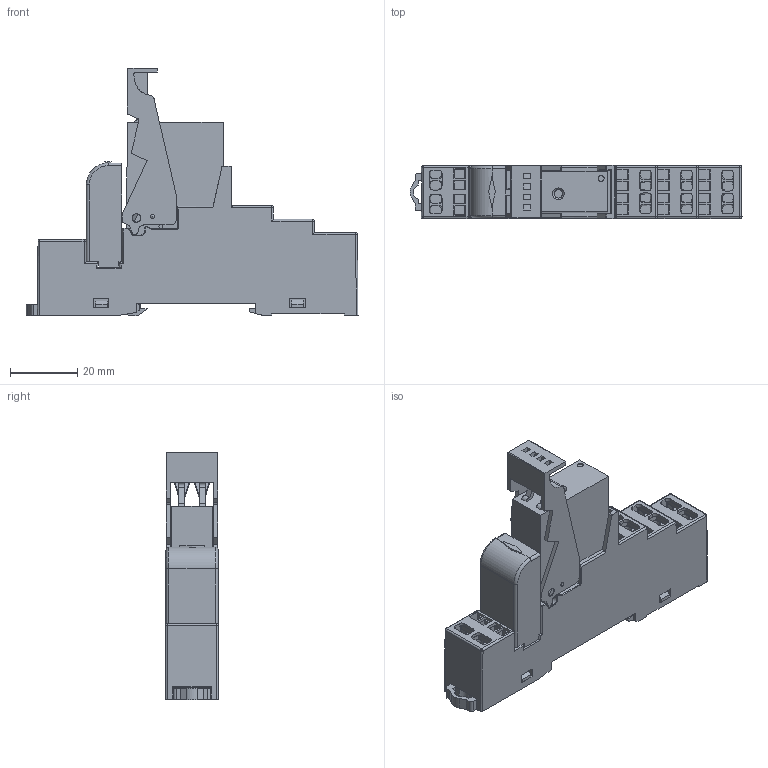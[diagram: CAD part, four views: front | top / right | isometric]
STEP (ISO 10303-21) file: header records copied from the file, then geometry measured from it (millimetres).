
FILE_DESCRIPTION( ( 'Unknown' ), '1' );
FILE_NAME( 'C:/Users/pdellaca/Desktop/48_72/4872.stp', 'Unknown', ( 'Unknown' ), ( 'Unknown' ), 'PSStep 15.0.49', 'Unknown', ' ' );
FILE_SCHEMA( ( 'AUTOMOTIVE_DESIGN { 1 0 10303 214 1 1 1 1 }' ) );
Length unit declared in the file: millimetre
Products named in the file (36): None; 1; top
Bounding box: 99 x 15.88 x 73.92 mm (x, y, z)
Volume: 11075.8 mm3; surface area: 32327.6 mm2
Topology: 2 solids, 1192 shells, 1436 faces, 7800 edges, 7471 vertices
Faces by surface type: plane 977, cylinder 258, bspline 157, sphere 14, torus 11, extrusion 10, cone 9
Full cylindrical faces by diameter (mm): 1.2 x4, 1.3 x2, 1.8 x1, 2.5 x2, 2.6 x2, 3 x2
Entity records: 96186 total; most frequent: CARTESIAN_POINT 27845, DIRECTION 10202, ORIENTED_EDGE 8364, EDGE_CURVE 7680, VERTEX_POINT 7458, VECTOR 5934, LINE 5924, AXIS2_PLACEMENT_3D 2134
